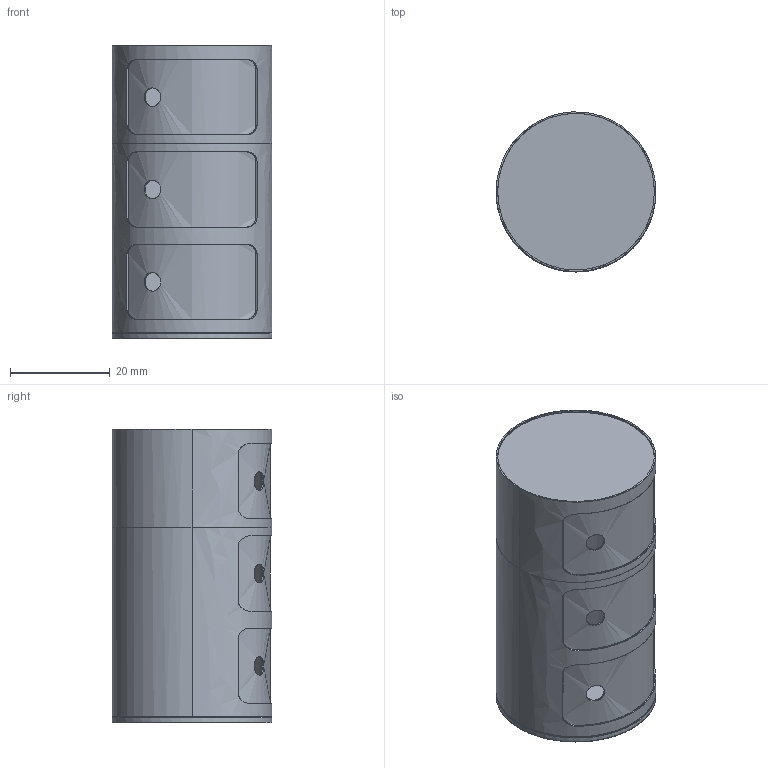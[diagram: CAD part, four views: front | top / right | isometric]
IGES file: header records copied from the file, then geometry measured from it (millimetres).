
Global section: file name: D:\3ddFactory\3D_Kartell\Ex-novo_3dd\componibili\4967\Componibili_3d_Anna Castelli Ferrieri_Kartell.igs; native system: Rhinoceros ( Mar 10 2014 ); preprocessor: Trout Lake IGES 012 Mar 10 2014; date: 180212.133646; units: millimetre
Bounding box: 32 x 32 x 58.91 mm (x, y, z)
Surface area: 17216.3 mm2 (no closed solid volume)
Topology: 0 solids, 0 shells, 43 faces, 651 edges, 640 vertices
Faces by surface type: bspline 43
